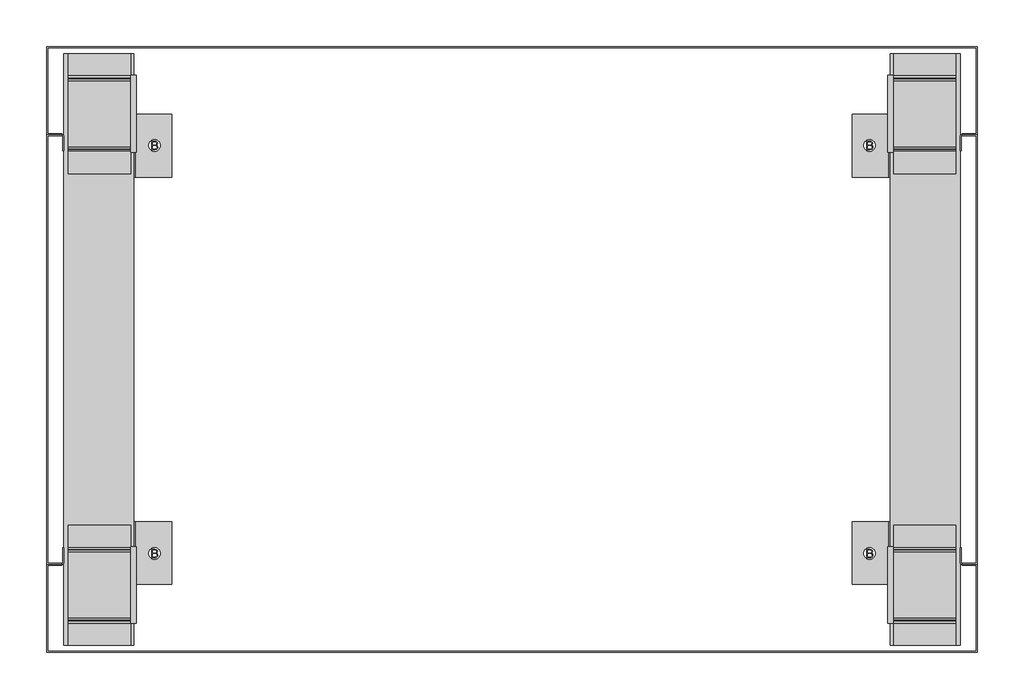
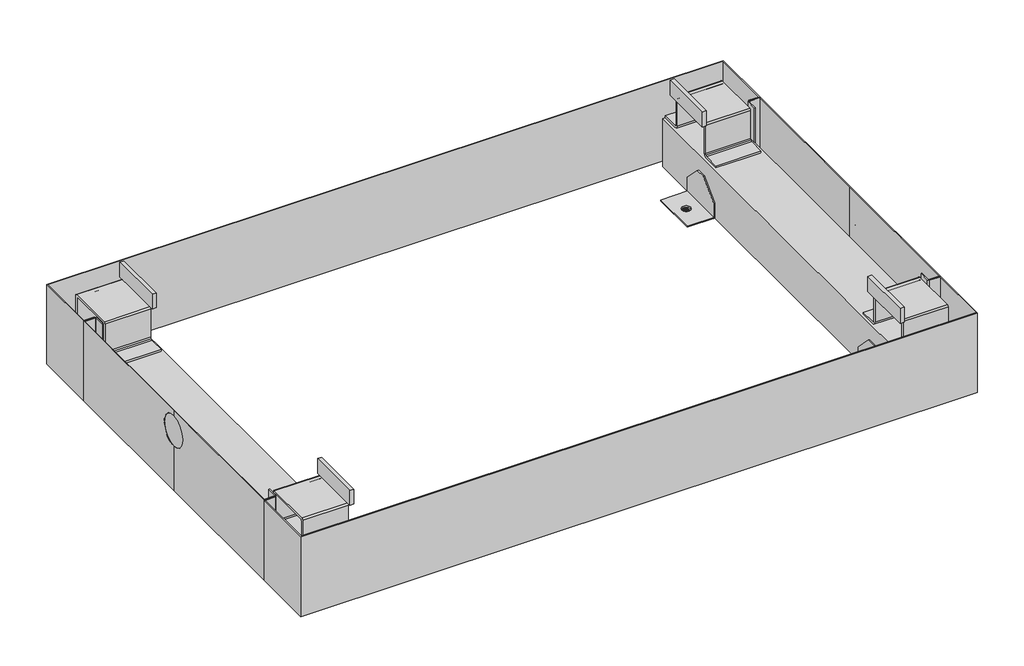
# Not in any storey: 1 proxy.
"""IFC4 building model written with IfcOpenShell, lengths in millimetres."""

from ifc_helpers import new_model, si_unit, origin, place, context, project, spatial, transform, mapped, element, save
from components import specialty_equipment_adf1b3c8

model = new_model("IFC4")

# Units and contexts
model_context = context("Model", 3, world=origin())
ifc_project = project(units=[si_unit("LENGTHUNIT", "METRE", prefix="MILLI")], contexts=[model_context])

# Site, building
site = spatial("IfcSite", under=ifc_project)
building = spatial("IfcBuilding", under=site)

# Proxy
placement = place(None, origin())
specialty_equipment_shape = specialty_equipment_adf1b3c8(model_context)
element("IfcBuildingElementProxy", 1, Name="11783010_EU_APWM026_IG : 59510026_EU_11783010_APWM026_IG", ObjectType="11783010_EU_APWM026_IG : 59510026_EU_11783010_APWM026_IG", at=placement, inside=building, context=model_context, shape_type="MappedRepresentation", body=[
    mapped(specialty_equipment_shape, transform((0.0, 0.0, 0.0), x_axis=(1.0, 0.0, 0.0), y_axis=(0.0, 1.0, 0.0), z_axis=(0.0, 0.0, 1.0))),
])

save(model, "model.ifc")
